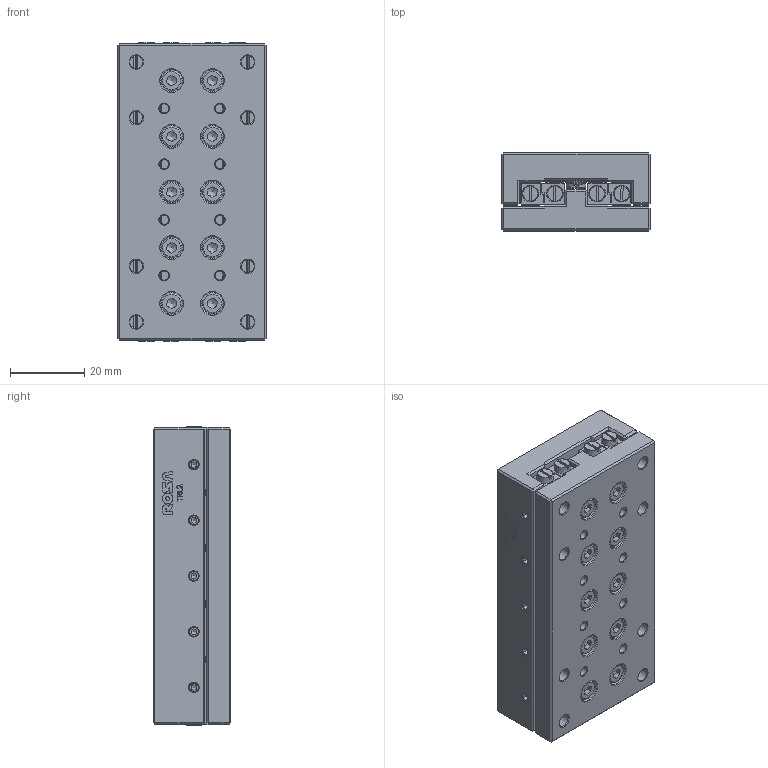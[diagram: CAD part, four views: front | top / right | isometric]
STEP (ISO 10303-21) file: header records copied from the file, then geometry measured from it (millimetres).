
FILE_DESCRIPTION(/* description */ ('Tavola TRL02 L=80 mm'),/* implementation_level */ '2;1');
FILE_NAME(/* name */ 'TRL020080-00.stp',/* time_stamp */ '2024-01-31T08:34:59+01:00',/* author */ ('ufficiotecnico'),/* organization */ (''),/* preprocessor_version */ 'ST-DEVELOPER v20',/* originating_system */ 'Autodesk Inventor 2024',/* authorisation */ '');
FILE_SCHEMA (('AUTOMOTIVE_DESIGN { 1 0 10303 214 3 1 1 }'));
Products named in the file (2): TRL020080-00; TRL020080-00_1
Assembly tree (1 placements, depth 2):
  TRL020080-00
    TRL020080-00_1
Bounding box: 40 x 21 x 80.6 mm (x, y, z)
Volume: 60111.3 mm3; surface area: 27328.7 mm2
Topology: 8 solids, 8 shells, 1649 faces, 4233 edges, 2732 vertices
Faces by surface type: plane 1057, cylinder 215, cone 163, bspline 156, torus 58
Full cylindrical faces by diameter (mm): 0.774 x4, 1.039 x1, 2.128 x4, 2.459 x28, 2.856 x1, 3 x20, 3.5 x8, 4.4 x20, 5.5 x20, 6 x28
Entity records: 51631 total; most frequent: CARTESIAN_POINT 11390, ORIENTED_EDGE 8416, DIRECTION 7585, EDGE_CURVE 4208, VERTEX_POINT 2732, LINE 2653, VECTOR 2653, AXIS2_PLACEMENT_3D 2466
